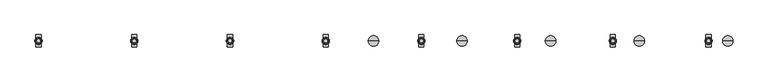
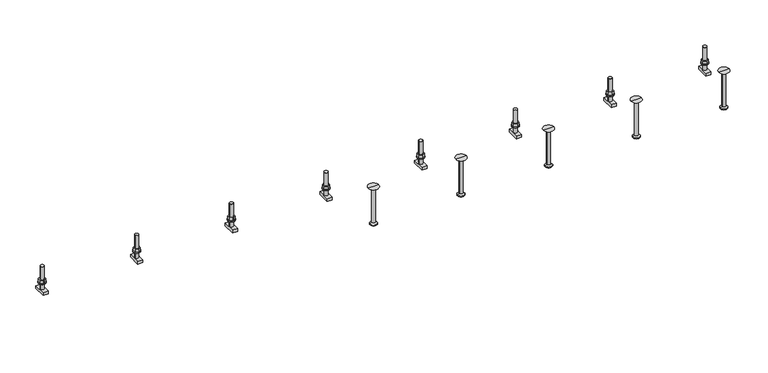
"""IFC4 building model written with IfcOpenShell, lengths in millimetres: fastener geometry, JTA-W JORDAHL® AnchorChannels : JTA-W L=3000 mm."""

from ifc_helpers import new_model, si_unit, point, frame, frame_2d, origin, place, context, project, spatial, polyline, circle_curve, trimmed, segment, composite_curve, outline, extrude, source, transform, mapped, element, save
from ifc_brep_helpers import plane_surface, cylinder_surface, revolved_surface, advanced_brep


def fastener_8da7cda9(model_context):
    return source(origin(), model_context, "Body", "SolidModel", [
        extrude(outline(polyline([(2608.3333333, -10.3923048), (2599.3333333, -5.1961524), (2599.3333333, 5.1961524), (2608.3333333, 10.3923048), (2617.3333333, 5.1961524), (2617.3333333, -5.1961524), (2608.3333333, -10.3923048)]), holes=[composite_curve([segment(trimmed(circle_curve(frame_2d((2608.3333333, 0.0)), 6.0), [point((2602.3333333, 0.0))], [point((2614.3333333, 0.0))], True, "CARTESIAN"), True, "CONTINUOUS"), segment(trimmed(circle_curve(frame_2d((2608.3333333, 0.0)), 6.0), [point((2614.3333333, 0.0))], [point((2602.3333333, 0.0))], True, "CARTESIAN"), True, "CONTINUOUS")], self_intersect=False)]), frame((0.0, 0.0, 17.5), z_axis=(0.0, 0.0, 1.0), x_axis=(1.0, 0.0, 0.0)), (0.0, 0.0, 1.0), 10.8),
        extrude(outline(composite_curve([segment(trimmed(circle_curve(frame_2d((2608.3333333, 0.0)), 12.0), [point((2596.3333333, 0.0))], [point((2620.3333333, 0.0))], False, "CARTESIAN"), True, "CONTINUOUS"), segment(trimmed(circle_curve(frame_2d((2608.3333333, 0.0)), 12.0), [point((2620.3333333, 0.0))], [point((2596.3333333, 0.0))], False, "CARTESIAN"), True, "CONTINUOUS")], self_intersect=False), holes=[composite_curve([segment(trimmed(circle_curve(frame_2d((2608.3333333, 0.0)), 6.5), [point((2601.8333333, 0.0))], [point((2614.8333333, 0.0))], True, "CARTESIAN"), True, "CONTINUOUS"), segment(trimmed(circle_curve(frame_2d((2608.3333333, 0.0)), 6.5), [point((2614.8333333, 0.0))], [point((2601.8333333, 0.0))], True, "CARTESIAN"), True, "CONTINUOUS")], self_intersect=False)]), frame((0.0, 0.0, 15.0), z_axis=(0.0, 0.0, 1.0), x_axis=(1.0, 0.0, 0.0)), (0.0, 0.0, 1.0), 2.5),
        extrude(outline(polyline([(2291.6666667, -10.3923048), (2282.6666667, -5.1961524), (2282.6666667, 5.1961524), (2291.6666667, 10.3923048), (2300.6666667, 5.1961524), (2300.6666667, -5.1961524), (2291.6666667, -10.3923048)]), holes=[composite_curve([segment(trimmed(circle_curve(frame_2d((2291.6666667, 0.0)), 6.0), [point((2285.6666667, 0.0))], [point((2297.6666667, 0.0))], True, "CARTESIAN"), True, "CONTINUOUS"), segment(trimmed(circle_curve(frame_2d((2291.6666667, 0.0)), 6.0), [point((2297.6666667, 0.0))], [point((2285.6666667, 0.0))], True, "CARTESIAN"), True, "CONTINUOUS")], self_intersect=False)]), frame((0.0, 0.0, 17.5), z_axis=(0.0, 0.0, 1.0), x_axis=(1.0, 0.0, 0.0)), (0.0, 0.0, 1.0), 10.8),
        extrude(outline(composite_curve([segment(trimmed(circle_curve(frame_2d((2291.6666667, 0.0)), 12.0), [point((2279.6666667, 0.0))], [point((2303.6666667, 0.0))], False, "CARTESIAN"), True, "CONTINUOUS"), segment(trimmed(circle_curve(frame_2d((2291.6666667, 0.0)), 12.0), [point((2303.6666667, 0.0))], [point((2279.6666667, 0.0))], False, "CARTESIAN"), True, "CONTINUOUS")], self_intersect=False), holes=[composite_curve([segment(trimmed(circle_curve(frame_2d((2291.6666667, 0.0)), 6.5), [point((2285.1666667, 0.0))], [point((2298.1666667, 0.0))], True, "CARTESIAN"), True, "CONTINUOUS"), segment(trimmed(circle_curve(frame_2d((2291.6666667, 0.0)), 6.5), [point((2298.1666667, 0.0))], [point((2285.1666667, 0.0))], True, "CARTESIAN"), True, "CONTINUOUS")], self_intersect=False)]), frame((0.0, 0.0, 15.0), z_axis=(0.0, 0.0, 1.0), x_axis=(1.0, 0.0, 0.0)), (0.0, 0.0, 1.0), 2.5),
        extrude(outline(polyline([(1975.0, -10.3923048), (1966.0, -5.1961524), (1966.0, 5.1961524), (1975.0, 10.3923048), (1984.0, 5.1961524), (1984.0, -5.1961524), (1975.0, -10.3923048)]), holes=[composite_curve([segment(trimmed(circle_curve(frame_2d((1975.0, 0.0)), 6.0), [point((1969.0, 0.0))], [point((1981.0, 0.0))], True, "CARTESIAN"), True, "CONTINUOUS"), segment(trimmed(circle_curve(frame_2d((1975.0, 0.0)), 6.0), [point((1981.0, 0.0))], [point((1969.0, 0.0))], True, "CARTESIAN"), True, "CONTINUOUS")], self_intersect=False)]), frame((0.0, 0.0, 17.5), z_axis=(0.0, 0.0, 1.0), x_axis=(1.0, 0.0, 0.0)), (0.0, 0.0, 1.0), 10.8),
        extrude(outline(composite_curve([segment(trimmed(circle_curve(frame_2d((1975.0, 0.0)), 12.0), [point((1963.0, 0.0))], [point((1987.0, 0.0))], False, "CARTESIAN"), True, "CONTINUOUS"), segment(trimmed(circle_curve(frame_2d((1975.0, 0.0)), 12.0), [point((1987.0, 0.0))], [point((1963.0, 0.0))], False, "CARTESIAN"), True, "CONTINUOUS")], self_intersect=False), holes=[composite_curve([segment(trimmed(circle_curve(frame_2d((1975.0, 0.0)), 6.5), [point((1968.5, 0.0))], [point((1981.5, 0.0))], True, "CARTESIAN"), True, "CONTINUOUS"), segment(trimmed(circle_curve(frame_2d((1975.0, 0.0)), 6.5), [point((1981.5, 0.0))], [point((1968.5, 0.0))], True, "CARTESIAN"), True, "CONTINUOUS")], self_intersect=False)]), frame((0.0, 0.0, 15.0), z_axis=(0.0, 0.0, 1.0), x_axis=(1.0, 0.0, 0.0)), (0.0, 0.0, 1.0), 2.5),
        extrude(outline(polyline([(1658.3333333, -10.3923048), (1649.3333333, -5.1961524), (1649.3333333, 5.1961524), (1658.3333333, 10.3923048), (1667.3333333, 5.1961524), (1667.3333333, -5.1961524), (1658.3333333, -10.3923048)]), holes=[composite_curve([segment(trimmed(circle_curve(frame_2d((1658.3333333, 0.0)), 6.0), [point((1652.3333333, 0.0))], [point((1664.3333333, 0.0))], True, "CARTESIAN"), True, "CONTINUOUS"), segment(trimmed(circle_curve(frame_2d((1658.3333333, 0.0)), 6.0), [point((1664.3333333, 0.0))], [point((1652.3333333, 0.0))], True, "CARTESIAN"), True, "CONTINUOUS")], self_intersect=False)]), frame((0.0, 0.0, 17.5), z_axis=(0.0, 0.0, 1.0), x_axis=(1.0, 0.0, 0.0)), (0.0, 0.0, 1.0), 10.8),
        extrude(outline(composite_curve([segment(trimmed(circle_curve(frame_2d((1658.3333333, 0.0)), 12.0), [point((1646.3333333, 0.0))], [point((1670.3333333, 0.0))], False, "CARTESIAN"), True, "CONTINUOUS"), segment(trimmed(circle_curve(frame_2d((1658.3333333, 0.0)), 12.0), [point((1670.3333333, 0.0))], [point((1646.3333333, 0.0))], False, "CARTESIAN"), True, "CONTINUOUS")], self_intersect=False), holes=[composite_curve([segment(trimmed(circle_curve(frame_2d((1658.3333333, 0.0)), 6.5), [point((1651.8333333, 0.0))], [point((1664.8333333, 0.0))], True, "CARTESIAN"), True, "CONTINUOUS"), segment(trimmed(circle_curve(frame_2d((1658.3333333, 0.0)), 6.5), [point((1664.8333333, 0.0))], [point((1651.8333333, 0.0))], True, "CARTESIAN"), True, "CONTINUOUS")], self_intersect=False)]), frame((0.0, 0.0, 15.0), z_axis=(0.0, 0.0, 1.0), x_axis=(1.0, 0.0, 0.0)), (0.0, 0.0, 1.0), 2.5),
        extrude(outline(polyline([(1341.6666667, -10.3923048), (1332.6666667, -5.1961524), (1332.6666667, 5.1961524), (1341.6666667, 10.3923048), (1350.6666667, 5.1961524), (1350.6666667, -5.1961524), (1341.6666667, -10.3923048)]), holes=[composite_curve([segment(trimmed(circle_curve(frame_2d((1341.6666667, 0.0)), 6.0), [point((1335.6666667, 0.0))], [point((1347.6666667, 0.0))], True, "CARTESIAN"), True, "CONTINUOUS"), segment(trimmed(circle_curve(frame_2d((1341.6666667, 0.0)), 6.0), [point((1347.6666667, 0.0))], [point((1335.6666667, 0.0))], True, "CARTESIAN"), True, "CONTINUOUS")], self_intersect=False)]), frame((0.0, 0.0, 17.5), z_axis=(0.0, 0.0, 1.0), x_axis=(1.0, 0.0, 0.0)), (0.0, 0.0, 1.0), 10.8),
        extrude(outline(composite_curve([segment(trimmed(circle_curve(frame_2d((1341.6666667, 0.0)), 12.0), [point((1329.6666667, 0.0))], [point((1353.6666667, 0.0))], False, "CARTESIAN"), True, "CONTINUOUS"), segment(trimmed(circle_curve(frame_2d((1341.6666667, 0.0)), 12.0), [point((1353.6666667, 0.0))], [point((1329.6666667, 0.0))], False, "CARTESIAN"), True, "CONTINUOUS")], self_intersect=False), holes=[composite_curve([segment(trimmed(circle_curve(frame_2d((1341.6666667, 0.0)), 6.5), [point((1335.1666667, 0.0))], [point((1348.1666667, 0.0))], True, "CARTESIAN"), True, "CONTINUOUS"), segment(trimmed(circle_curve(frame_2d((1341.6666667, 0.0)), 6.5), [point((1348.1666667, 0.0))], [point((1335.1666667, 0.0))], True, "CARTESIAN"), True, "CONTINUOUS")], self_intersect=False)]), frame((0.0, 0.0, 15.0), z_axis=(0.0, 0.0, 1.0), x_axis=(1.0, 0.0, 0.0)), (0.0, 0.0, 1.0), 2.5),
        extrude(outline(polyline([(1025.0, -10.3923048), (1016.0, -5.1961524), (1016.0, 5.1961524), (1025.0, 10.3923048), (1034.0, 5.1961524), (1034.0, -5.1961524), (1025.0, -10.3923048)]), holes=[composite_curve([segment(trimmed(circle_curve(frame_2d((1025.0, 0.0)), 6.0), [point((1019.0, 0.0))], [point((1031.0, 0.0))], True, "CARTESIAN"), True, "CONTINUOUS"), segment(trimmed(circle_curve(frame_2d((1025.0, 0.0)), 6.0), [point((1031.0, 0.0))], [point((1019.0, 0.0))], True, "CARTESIAN"), True, "CONTINUOUS")], self_intersect=False)]), frame((0.0, 0.0, 17.5), z_axis=(0.0, 0.0, 1.0), x_axis=(1.0, 0.0, 0.0)), (0.0, 0.0, 1.0), 10.8),
        extrude(outline(composite_curve([segment(trimmed(circle_curve(frame_2d((1025.0, 0.0)), 12.0), [point((1013.0, 0.0))], [point((1037.0, 0.0))], False, "CARTESIAN"), True, "CONTINUOUS"), segment(trimmed(circle_curve(frame_2d((1025.0, 0.0)), 12.0), [point((1037.0, 0.0))], [point((1013.0, 0.0))], False, "CARTESIAN"), True, "CONTINUOUS")], self_intersect=False), holes=[composite_curve([segment(trimmed(circle_curve(frame_2d((1025.0, 0.0)), 6.5), [point((1018.5, 0.0))], [point((1031.5, 0.0))], True, "CARTESIAN"), True, "CONTINUOUS"), segment(trimmed(circle_curve(frame_2d((1025.0, 0.0)), 6.5), [point((1031.5, 0.0))], [point((1018.5, 0.0))], True, "CARTESIAN"), True, "CONTINUOUS")], self_intersect=False)]), frame((0.0, 0.0, 15.0), z_axis=(0.0, 0.0, 1.0), x_axis=(1.0, 0.0, 0.0)), (0.0, 0.0, 1.0), 2.5),
        extrude(outline(polyline([(708.3333333, -10.3923048), (699.3333333, -5.1961524), (699.3333333, 5.1961524), (708.3333333, 10.3923048), (717.3333333, 5.1961524), (717.3333333, -5.1961524), (708.3333333, -10.3923048)]), holes=[composite_curve([segment(trimmed(circle_curve(frame_2d((708.3333333, 0.0)), 6.0), [point((702.3333333, 0.0))], [point((714.3333333, 0.0))], True, "CARTESIAN"), True, "CONTINUOUS"), segment(trimmed(circle_curve(frame_2d((708.3333333, 0.0)), 6.0), [point((714.3333333, 0.0))], [point((702.3333333, 0.0))], True, "CARTESIAN"), True, "CONTINUOUS")], self_intersect=False)]), frame((0.0, 0.0, 17.5), z_axis=(0.0, 0.0, 1.0), x_axis=(1.0, 0.0, 0.0)), (0.0, 0.0, 1.0), 10.8),
        extrude(outline(composite_curve([segment(trimmed(circle_curve(frame_2d((708.3333333, 0.0)), 12.0), [point((696.3333333, 0.0))], [point((720.3333333, 0.0))], False, "CARTESIAN"), True, "CONTINUOUS"), segment(trimmed(circle_curve(frame_2d((708.3333333, 0.0)), 12.0), [point((720.3333333, 0.0))], [point((696.3333333, 0.0))], False, "CARTESIAN"), True, "CONTINUOUS")], self_intersect=False), holes=[composite_curve([segment(trimmed(circle_curve(frame_2d((708.3333333, 0.0)), 6.5), [point((701.8333333, 0.0))], [point((714.8333333, 0.0))], True, "CARTESIAN"), True, "CONTINUOUS"), segment(trimmed(circle_curve(frame_2d((708.3333333, 0.0)), 6.5), [point((714.8333333, 0.0))], [point((701.8333333, 0.0))], True, "CARTESIAN"), True, "CONTINUOUS")], self_intersect=False)]), frame((0.0, 0.0, 15.0), z_axis=(0.0, 0.0, 1.0), x_axis=(1.0, 0.0, 0.0)), (0.0, 0.0, 1.0), 2.5),
        extrude(outline(polyline([(391.6666667, -10.3923048), (382.6666667, -5.1961524), (382.6666667, 5.1961524), (391.6666667, 10.3923048), (400.6666667, 5.1961524), (400.6666667, -5.1961524), (391.6666667, -10.3923048)]), holes=[composite_curve([segment(trimmed(circle_curve(frame_2d((391.6666667, 0.0)), 6.0), [point((385.6666667, 0.0))], [point((397.6666667, 0.0))], True, "CARTESIAN"), True, "CONTINUOUS"), segment(trimmed(circle_curve(frame_2d((391.6666667, 0.0)), 6.0), [point((397.6666667, 0.0))], [point((385.6666667, 0.0))], True, "CARTESIAN"), True, "CONTINUOUS")], self_intersect=False)]), frame((0.0, 0.0, 17.5), z_axis=(0.0, 0.0, 1.0), x_axis=(1.0, 0.0, 0.0)), (0.0, 0.0, 1.0), 10.8),
        extrude(outline(composite_curve([segment(trimmed(circle_curve(frame_2d((391.6666667, 0.0)), 12.0), [point((379.6666667, 0.0))], [point((403.6666667, 0.0))], False, "CARTESIAN"), True, "CONTINUOUS"), segment(trimmed(circle_curve(frame_2d((391.6666667, 0.0)), 12.0), [point((403.6666667, 0.0))], [point((379.6666667, 0.0))], False, "CARTESIAN"), True, "CONTINUOUS")], self_intersect=False), holes=[composite_curve([segment(trimmed(circle_curve(frame_2d((391.6666667, 0.0)), 6.5), [point((385.1666667, 0.0))], [point((398.1666667, 0.0))], True, "CARTESIAN"), True, "CONTINUOUS"), segment(trimmed(circle_curve(frame_2d((391.6666667, 0.0)), 6.5), [point((398.1666667, 0.0))], [point((385.1666667, 0.0))], True, "CARTESIAN"), True, "CONTINUOUS")], self_intersect=False)]), frame((0.0, 0.0, 15.0), z_axis=(0.0, 0.0, 1.0), x_axis=(1.0, 0.0, 0.0)), (0.0, 0.0, 1.0), 2.5),
        advanced_brep(
        [(2616.8333333, -20.7, -6.5), (2616.8333333, -20.7, -16.5), (2616.8333333, 20.7, -16.5), (2616.8333333, 20.7, -6.5), (2599.8333333, -20.7, -6.5), (2599.8333333, 20.7, -6.5), (2599.8333333, 20.7, -16.5), (2599.8333333, -20.7, -16.5), (2614.3333333, 0.0, -6.5), (2602.3333333, 0.0, -6.5), (2602.3333333, 0.0, 73.5), (2614.3333333, 0.0, 73.5)],
        [
            (0, 1),
            (1, 2),
            (2, 3),
            (3, 0),
            (4, 5),
            (5, 6),
            (6, 7),
            (7, 4),
            (3, 5),
            (4, 0),
            (8, 9, circle_curve(frame((2608.3333333, 0.0, -6.5), z_axis=(0.0, 0.0, -1.0), x_axis=(1.0, 0.0, 0.0)), 6.0)),
            (9, 8, circle_curve(frame((2608.3333333, 0.0, -6.5), z_axis=(0.0, 0.0, -1.0), x_axis=(1.0, 0.0, 0.0)), 6.0)),
            (2, 6),
            (1, 7),
            (10, 11, circle_curve(frame((2608.3333333, 0.0, 73.5), z_axis=(0.0, 0.0, 1.0), x_axis=(1.0, 0.0, 0.0)), 6.0)),
            (11, 10, circle_curve(frame((2608.3333333, 0.0, 73.5), z_axis=(0.0, 0.0, 1.0), x_axis=(1.0, 0.0, 0.0)), 6.0)),
            (11, 8),
            (9, 10),
        ],
        [
            plane_surface(frame((2616.8333333, 20.7, -6.5), z_axis=(1.0, 0.0, 0.0), x_axis=(0.0, 1.0, 0.0))),
            plane_surface(frame((2599.8333333, 20.7, -6.5), z_axis=(-1.0, 0.0, 0.0), x_axis=(0.0, -1.0, 0.0))),
            plane_surface(frame((2616.8333333, -20.7, -6.5), z_axis=(0.0, 0.0, 1.0), x_axis=(-1.0, 0.0, 0.0))),
            plane_surface(frame((2616.8333333, 20.7, -6.5), z_axis=(0.0, 1.0, 0.0), x_axis=(-1.0, 0.0, 0.0))),
            plane_surface(frame((2616.8333333, 20.7, -16.5), z_axis=(0.0, 0.0, -1.0), x_axis=(-1.0, 0.0, 0.0))),
            plane_surface(frame((2616.8333333, -20.7, -16.5), z_axis=(0.0, -1.0, 0.0), x_axis=(-1.0, 0.0, 0.0))),
            plane_surface(frame((2614.3333333, 0.0, 73.5), z_axis=(0.0, 0.0, 1.0), x_axis=(0.0, -1.0, 0.0))),
            cylinder_surface(frame((2608.3333333, 0.0, -6.5), z_axis=(0.0, 0.0, 1.0), x_axis=(1.0, 0.0, 0.0)), 6.0),
        ],
        [
            (0, [[1, 2, 3, 4]]),
            (1, [[5, 6, 7, 8]]),
            (2, [[9, -5, 10, -4], [11, 12]]),
            (3, [[13, -6, -9, -3]]),
            (4, [[14, -7, -13, -2]]),
            (5, [[-10, -8, -14, -1]]),
            (6, [[15, 16]]),
            (7, [[17, -12, 18, -16]]),
            (7, [[-18, -11, -17, -15]]),
        ],
    ),
        advanced_brep(
        [(2300.1666667, -20.7, -6.5), (2300.1666667, -20.7, -16.5), (2300.1666667, 20.7, -16.5), (2300.1666667, 20.7, -6.5), (2283.1666667, -20.7, -6.5), (2283.1666667, 20.7, -6.5), (2283.1666667, 20.7, -16.5), (2283.1666667, -20.7, -16.5), (2297.6666667, 0.0, -6.5), (2285.6666667, 0.0, -6.5), (2285.6666667, 0.0, 73.5), (2297.6666667, 0.0, 73.5)],
        [
            (0, 1),
            (1, 2),
            (2, 3),
            (3, 0),
            (4, 5),
            (5, 6),
            (6, 7),
            (7, 4),
            (3, 5),
            (4, 0),
            (8, 9, circle_curve(frame((2291.6666667, 0.0, -6.5), z_axis=(0.0, 0.0, -1.0), x_axis=(1.0, 0.0, 0.0)), 6.0)),
            (9, 8, circle_curve(frame((2291.6666667, 0.0, -6.5), z_axis=(0.0, 0.0, -1.0), x_axis=(1.0, 0.0, 0.0)), 6.0)),
            (2, 6),
            (1, 7),
            (10, 11, circle_curve(frame((2291.6666667, 0.0, 73.5), z_axis=(0.0, 0.0, 1.0), x_axis=(1.0, 0.0, 0.0)), 6.0)),
            (11, 10, circle_curve(frame((2291.6666667, 0.0, 73.5), z_axis=(0.0, 0.0, 1.0), x_axis=(1.0, 0.0, 0.0)), 6.0)),
            (11, 8),
            (9, 10),
        ],
        [
            plane_surface(frame((2300.1666667, 20.7, -6.5), z_axis=(1.0, 0.0, 0.0), x_axis=(0.0, 1.0, 0.0))),
            plane_surface(frame((2283.1666667, 20.7, -6.5), z_axis=(-1.0, 0.0, 0.0), x_axis=(0.0, -1.0, 0.0))),
            plane_surface(frame((2300.1666667, -20.7, -6.5), z_axis=(0.0, 0.0, 1.0), x_axis=(-1.0, 0.0, 0.0))),
            plane_surface(frame((2300.1666667, 20.7, -6.5), z_axis=(0.0, 1.0, 0.0), x_axis=(-1.0, 0.0, 0.0))),
            plane_surface(frame((2300.1666667, 20.7, -16.5), z_axis=(0.0, 0.0, -1.0), x_axis=(-1.0, 0.0, 0.0))),
            plane_surface(frame((2300.1666667, -20.7, -16.5), z_axis=(0.0, -1.0, 0.0), x_axis=(-1.0, 0.0, 0.0))),
            plane_surface(frame((2297.6666667, 0.0, 73.5), z_axis=(0.0, 0.0, 1.0), x_axis=(0.0, -1.0, 0.0))),
            cylinder_surface(frame((2291.6666667, 0.0, -6.5), z_axis=(0.0, 0.0, 1.0), x_axis=(1.0, 0.0, 0.0)), 6.0),
        ],
        [
            (0, [[1, 2, 3, 4]]),
            (1, [[5, 6, 7, 8]]),
            (2, [[9, -5, 10, -4], [11, 12]]),
            (3, [[13, -6, -9, -3]]),
            (4, [[14, -7, -13, -2]]),
            (5, [[-10, -8, -14, -1]]),
            (6, [[15, 16]]),
            (7, [[17, -12, 18, -16]]),
            (7, [[-18, -11, -17, -15]]),
        ],
    ),
        advanced_brep(
        [(1983.5, -20.7, -6.5), (1983.5, -20.7, -16.5), (1983.5, 20.7, -16.5), (1983.5, 20.7, -6.5), (1966.5, -20.7, -6.5), (1966.5, 20.7, -6.5), (1966.5, 20.7, -16.5), (1966.5, -20.7, -16.5), (1981.0, 0.0, -6.5), (1969.0, 0.0, -6.5), (1969.0, 0.0, 73.5), (1981.0, 0.0, 73.5)],
        [
            (0, 1),
            (1, 2),
            (2, 3),
            (3, 0),
            (4, 5),
            (5, 6),
            (6, 7),
            (7, 4),
            (3, 5),
            (4, 0),
            (8, 9, circle_curve(frame((1975.0, 0.0, -6.5), z_axis=(0.0, 0.0, -1.0), x_axis=(1.0, 0.0, 0.0)), 6.0)),
            (9, 8, circle_curve(frame((1975.0, 0.0, -6.5), z_axis=(0.0, 0.0, -1.0), x_axis=(1.0, 0.0, 0.0)), 6.0)),
            (2, 6),
            (1, 7),
            (10, 11, circle_curve(frame((1975.0, 0.0, 73.5), z_axis=(0.0, 0.0, 1.0), x_axis=(1.0, 0.0, 0.0)), 6.0)),
            (11, 10, circle_curve(frame((1975.0, 0.0, 73.5), z_axis=(0.0, 0.0, 1.0), x_axis=(1.0, 0.0, 0.0)), 6.0)),
            (11, 8),
            (9, 10),
        ],
        [
            plane_surface(frame((1983.5, 20.7, -6.5), z_axis=(1.0, 0.0, 0.0), x_axis=(0.0, 1.0, 0.0))),
            plane_surface(frame((1966.5, 20.7, -6.5), z_axis=(-1.0, 0.0, 0.0), x_axis=(0.0, -1.0, 0.0))),
            plane_surface(frame((1983.5, -20.7, -6.5), z_axis=(0.0, 0.0, 1.0), x_axis=(-1.0, 0.0, 0.0))),
            plane_surface(frame((1983.5, 20.7, -6.5), z_axis=(0.0, 1.0, 0.0), x_axis=(-1.0, 0.0, 0.0))),
            plane_surface(frame((1983.5, 20.7, -16.5), z_axis=(0.0, 0.0, -1.0), x_axis=(-1.0, 0.0, 0.0))),
            plane_surface(frame((1983.5, -20.7, -16.5), z_axis=(0.0, -1.0, 0.0), x_axis=(-1.0, 0.0, 0.0))),
            plane_surface(frame((1981.0, 0.0, 73.5), z_axis=(0.0, 0.0, 1.0), x_axis=(0.0, -1.0, 0.0))),
            cylinder_surface(frame((1975.0, 0.0, -6.5), z_axis=(0.0, 0.0, 1.0), x_axis=(1.0, 0.0, 0.0)), 6.0),
        ],
        [
            (0, [[1, 2, 3, 4]]),
            (1, [[5, 6, 7, 8]]),
            (2, [[9, -5, 10, -4], [11, 12]]),
            (3, [[13, -6, -9, -3]]),
            (4, [[14, -7, -13, -2]]),
            (5, [[-10, -8, -14, -1]]),
            (6, [[15, 16]]),
            (7, [[17, -12, 18, -16]]),
            (7, [[-18, -11, -17, -15]]),
        ],
    ),
        advanced_brep(
        [(1666.8333333, -20.7, -6.5), (1666.8333333, -20.7, -16.5), (1666.8333333, 20.7, -16.5), (1666.8333333, 20.7, -6.5), (1649.8333333, -20.7, -6.5), (1649.8333333, 20.7, -6.5), (1649.8333333, 20.7, -16.5), (1649.8333333, -20.7, -16.5), (1664.3333333, 0.0, -6.5), (1652.3333333, 0.0, -6.5), (1652.3333333, 0.0, 73.5), (1664.3333333, 0.0, 73.5)],
        [
            (0, 1),
            (1, 2),
            (2, 3),
            (3, 0),
            (4, 5),
            (5, 6),
            (6, 7),
            (7, 4),
            (3, 5),
            (4, 0),
            (8, 9, circle_curve(frame((1658.3333333, 0.0, -6.5), z_axis=(0.0, 0.0, -1.0), x_axis=(1.0, 0.0, 0.0)), 6.0)),
            (9, 8, circle_curve(frame((1658.3333333, 0.0, -6.5), z_axis=(0.0, 0.0, -1.0), x_axis=(1.0, 0.0, 0.0)), 6.0)),
            (2, 6),
            (1, 7),
            (10, 11, circle_curve(frame((1658.3333333, 0.0, 73.5), z_axis=(0.0, 0.0, 1.0), x_axis=(1.0, 0.0, 0.0)), 6.0)),
            (11, 10, circle_curve(frame((1658.3333333, 0.0, 73.5), z_axis=(0.0, 0.0, 1.0), x_axis=(1.0, 0.0, 0.0)), 6.0)),
            (11, 8),
            (9, 10),
        ],
        [
            plane_surface(frame((1666.8333333, 20.7, -6.5), z_axis=(1.0, 0.0, 0.0), x_axis=(0.0, 1.0, 0.0))),
            plane_surface(frame((1649.8333333, 20.7, -6.5), z_axis=(-1.0, 0.0, 0.0), x_axis=(0.0, -1.0, 0.0))),
            plane_surface(frame((1666.8333333, -20.7, -6.5), z_axis=(0.0, 0.0, 1.0), x_axis=(-1.0, 0.0, 0.0))),
            plane_surface(frame((1666.8333333, 20.7, -6.5), z_axis=(0.0, 1.0, 0.0), x_axis=(-1.0, 0.0, 0.0))),
            plane_surface(frame((1666.8333333, 20.7, -16.5), z_axis=(0.0, 0.0, -1.0), x_axis=(-1.0, 0.0, 0.0))),
            plane_surface(frame((1666.8333333, -20.7, -16.5), z_axis=(0.0, -1.0, 0.0), x_axis=(-1.0, 0.0, 0.0))),
            plane_surface(frame((1664.3333333, 0.0, 73.5), z_axis=(0.0, 0.0, 1.0), x_axis=(0.0, -1.0, 0.0))),
            cylinder_surface(frame((1658.3333333, 0.0, -6.5), z_axis=(0.0, 0.0, 1.0), x_axis=(1.0, 0.0, 0.0)), 6.0),
        ],
        [
            (0, [[1, 2, 3, 4]]),
            (1, [[5, 6, 7, 8]]),
            (2, [[9, -5, 10, -4], [11, 12]]),
            (3, [[13, -6, -9, -3]]),
            (4, [[14, -7, -13, -2]]),
            (5, [[-10, -8, -14, -1]]),
            (6, [[15, 16]]),
            (7, [[17, -12, 18, -16]]),
            (7, [[-18, -11, -17, -15]]),
        ],
    ),
        advanced_brep(
        [(1350.1666667, -20.7, -6.5), (1350.1666667, -20.7, -16.5), (1350.1666667, 20.7, -16.5), (1350.1666667, 20.7, -6.5), (1333.1666667, -20.7, -6.5), (1333.1666667, 20.7, -6.5), (1333.1666667, 20.7, -16.5), (1333.1666667, -20.7, -16.5), (1347.6666667, 0.0, -6.5), (1335.6666667, 0.0, -6.5), (1335.6666667, 0.0, 73.5), (1347.6666667, 0.0, 73.5)],
        [
            (0, 1),
            (1, 2),
            (2, 3),
            (3, 0),
            (4, 5),
            (5, 6),
            (6, 7),
            (7, 4),
            (3, 5),
            (4, 0),
            (8, 9, circle_curve(frame((1341.6666667, 0.0, -6.5), z_axis=(0.0, 0.0, -1.0), x_axis=(1.0, 0.0, 0.0)), 6.0)),
            (9, 8, circle_curve(frame((1341.6666667, 0.0, -6.5), z_axis=(0.0, 0.0, -1.0), x_axis=(1.0, 0.0, 0.0)), 6.0)),
            (2, 6),
            (1, 7),
            (10, 11, circle_curve(frame((1341.6666667, 0.0, 73.5), z_axis=(0.0, 0.0, 1.0), x_axis=(1.0, 0.0, 0.0)), 6.0)),
            (11, 10, circle_curve(frame((1341.6666667, 0.0, 73.5), z_axis=(0.0, 0.0, 1.0), x_axis=(1.0, 0.0, 0.0)), 6.0)),
            (11, 8),
            (9, 10),
        ],
        [
            plane_surface(frame((1350.1666667, 20.7, -6.5), z_axis=(1.0, 0.0, 0.0), x_axis=(0.0, 1.0, 0.0))),
            plane_surface(frame((1333.1666667, 20.7, -6.5), z_axis=(-1.0, 0.0, 0.0), x_axis=(0.0, -1.0, 0.0))),
            plane_surface(frame((1350.1666667, -20.7, -6.5), z_axis=(0.0, 0.0, 1.0), x_axis=(-1.0, 0.0, 0.0))),
            plane_surface(frame((1350.1666667, 20.7, -6.5), z_axis=(0.0, 1.0, 0.0), x_axis=(-1.0, 0.0, 0.0))),
            plane_surface(frame((1350.1666667, 20.7, -16.5), z_axis=(0.0, 0.0, -1.0), x_axis=(-1.0, 0.0, 0.0))),
            plane_surface(frame((1350.1666667, -20.7, -16.5), z_axis=(0.0, -1.0, 0.0), x_axis=(-1.0, 0.0, 0.0))),
            plane_surface(frame((1347.6666667, 0.0, 73.5), z_axis=(0.0, 0.0, 1.0), x_axis=(0.0, -1.0, 0.0))),
            cylinder_surface(frame((1341.6666667, 0.0, -6.5), z_axis=(0.0, 0.0, 1.0), x_axis=(1.0, 0.0, 0.0)), 6.0),
        ],
        [
            (0, [[1, 2, 3, 4]]),
            (1, [[5, 6, 7, 8]]),
            (2, [[9, -5, 10, -4], [11, 12]]),
            (3, [[13, -6, -9, -3]]),
            (4, [[14, -7, -13, -2]]),
            (5, [[-10, -8, -14, -1]]),
            (6, [[15, 16]]),
            (7, [[17, -12, 18, -16]]),
            (7, [[-18, -11, -17, -15]]),
        ],
    ),
        advanced_brep(
        [(1033.5, -20.7, -6.5), (1033.5, -20.7, -16.5), (1033.5, 20.7, -16.5), (1033.5, 20.7, -6.5), (1016.5, -20.7, -6.5), (1016.5, 20.7, -6.5), (1016.5, 20.7, -16.5), (1016.5, -20.7, -16.5), (1031.0, 0.0, -6.5), (1019.0, 0.0, -6.5), (1019.0, 0.0, 73.5), (1031.0, 0.0, 73.5)],
        [
            (0, 1),
            (1, 2),
            (2, 3),
            (3, 0),
            (4, 5),
            (5, 6),
            (6, 7),
            (7, 4),
            (3, 5),
            (4, 0),
            (8, 9, circle_curve(frame((1025.0, 0.0, -6.5), z_axis=(0.0, 0.0, -1.0), x_axis=(1.0, 0.0, 0.0)), 6.0)),
            (9, 8, circle_curve(frame((1025.0, 0.0, -6.5), z_axis=(0.0, 0.0, -1.0), x_axis=(1.0, 0.0, 0.0)), 6.0)),
            (2, 6),
            (1, 7),
            (10, 11, circle_curve(frame((1025.0, 0.0, 73.5), z_axis=(0.0, 0.0, 1.0), x_axis=(1.0, 0.0, 0.0)), 6.0)),
            (11, 10, circle_curve(frame((1025.0, 0.0, 73.5), z_axis=(0.0, 0.0, 1.0), x_axis=(1.0, 0.0, 0.0)), 6.0)),
            (11, 8),
            (9, 10),
        ],
        [
            plane_surface(frame((1033.5, 20.7, -6.5), z_axis=(1.0, 0.0, 0.0), x_axis=(0.0, 1.0, 0.0))),
            plane_surface(frame((1016.5, 20.7, -6.5), z_axis=(-1.0, 0.0, 0.0), x_axis=(0.0, -1.0, 0.0))),
            plane_surface(frame((1033.5, -20.7, -6.5), z_axis=(0.0, 0.0, 1.0), x_axis=(-1.0, 0.0, 0.0))),
            plane_surface(frame((1033.5, 20.7, -6.5), z_axis=(0.0, 1.0, 0.0), x_axis=(-1.0, 0.0, 0.0))),
            plane_surface(frame((1033.5, 20.7, -16.5), z_axis=(0.0, 0.0, -1.0), x_axis=(-1.0, 0.0, 0.0))),
            plane_surface(frame((1033.5, -20.7, -16.5), z_axis=(0.0, -1.0, 0.0), x_axis=(-1.0, 0.0, 0.0))),
            plane_surface(frame((1031.0, 0.0, 73.5), z_axis=(0.0, 0.0, 1.0), x_axis=(0.0, -1.0, 0.0))),
            cylinder_surface(frame((1025.0, 0.0, -6.5), z_axis=(0.0, 0.0, 1.0), x_axis=(1.0, 0.0, 0.0)), 6.0),
        ],
        [
            (0, [[1, 2, 3, 4]]),
            (1, [[5, 6, 7, 8]]),
            (2, [[9, -5, 10, -4], [11, 12]]),
            (3, [[13, -6, -9, -3]]),
            (4, [[14, -7, -13, -2]]),
            (5, [[-10, -8, -14, -1]]),
            (6, [[15, 16]]),
            (7, [[17, -12, 18, -16]]),
            (7, [[-18, -11, -17, -15]]),
        ],
    ),
        advanced_brep(
        [(716.8333333, -20.7, -6.5), (716.8333333, -20.7, -16.5), (716.8333333, 20.7, -16.5), (716.8333333, 20.7, -6.5), (699.8333333, -20.7, -6.5), (699.8333333, 20.7, -6.5), (699.8333333, 20.7, -16.5), (699.8333333, -20.7, -16.5), (714.3333333, 0.0, -6.5), (702.3333333, 0.0, -6.5), (702.3333333, 0.0, 73.5), (714.3333333, 0.0, 73.5)],
        [
            (0, 1),
            (1, 2),
            (2, 3),
            (3, 0),
            (4, 5),
            (5, 6),
            (6, 7),
            (7, 4),
            (3, 5),
            (4, 0),
            (8, 9, circle_curve(frame((708.3333333, 0.0, -6.5), z_axis=(0.0, 0.0, -1.0), x_axis=(1.0, 0.0, 0.0)), 6.0)),
            (9, 8, circle_curve(frame((708.3333333, 0.0, -6.5), z_axis=(0.0, 0.0, -1.0), x_axis=(1.0, 0.0, 0.0)), 6.0)),
            (2, 6),
            (1, 7),
            (10, 11, circle_curve(frame((708.3333333, 0.0, 73.5), z_axis=(0.0, 0.0, 1.0), x_axis=(1.0, 0.0, 0.0)), 6.0)),
            (11, 10, circle_curve(frame((708.3333333, 0.0, 73.5), z_axis=(0.0, 0.0, 1.0), x_axis=(1.0, 0.0, 0.0)), 6.0)),
            (11, 8),
            (9, 10),
        ],
        [
            plane_surface(frame((716.8333333, 20.7, -6.5), z_axis=(1.0, 0.0, 0.0), x_axis=(0.0, 1.0, 0.0))),
            plane_surface(frame((699.8333333, 20.7, -6.5), z_axis=(-1.0, 0.0, 0.0), x_axis=(0.0, -1.0, 0.0))),
            plane_surface(frame((716.8333333, -20.7, -6.5), z_axis=(0.0, 0.0, 1.0), x_axis=(-1.0, 0.0, 0.0))),
            plane_surface(frame((716.8333333, 20.7, -6.5), z_axis=(0.0, 1.0, 0.0), x_axis=(-1.0, 0.0, 0.0))),
            plane_surface(frame((716.8333333, 20.7, -16.5), z_axis=(0.0, 0.0, -1.0), x_axis=(-1.0, 0.0, 0.0))),
            plane_surface(frame((716.8333333, -20.7, -16.5), z_axis=(0.0, -1.0, 0.0), x_axis=(-1.0, 0.0, 0.0))),
            plane_surface(frame((714.3333333, 0.0, 73.5), z_axis=(0.0, 0.0, 1.0), x_axis=(0.0, -1.0, 0.0))),
            cylinder_surface(frame((708.3333333, 0.0, -6.5), z_axis=(0.0, 0.0, 1.0), x_axis=(1.0, 0.0, 0.0)), 6.0),
        ],
        [
            (0, [[1, 2, 3, 4]]),
            (1, [[5, 6, 7, 8]]),
            (2, [[9, -5, 10, -4], [11, 12]]),
            (3, [[13, -6, -9, -3]]),
            (4, [[14, -7, -13, -2]]),
            (5, [[-10, -8, -14, -1]]),
            (6, [[15, 16]]),
            (7, [[17, -12, 18, -16]]),
            (7, [[-18, -11, -17, -15]]),
        ],
    ),
        advanced_brep(
        [(400.1666667, -20.7, -6.5), (400.1666667, -20.7, -16.5), (400.1666667, 20.7, -16.5), (400.1666667, 20.7, -6.5), (383.1666667, -20.7, -6.5), (383.1666667, 20.7, -6.5), (383.1666667, 20.7, -16.5), (383.1666667, -20.7, -16.5), (397.6666667, 0.0, -6.5), (385.6666667, 0.0, -6.5), (385.6666667, 0.0, 73.5), (397.6666667, 0.0, 73.5)],
        [
            (0, 1),
            (1, 2),
            (2, 3),
            (3, 0),
            (4, 5),
            (5, 6),
            (6, 7),
            (7, 4),
            (3, 5),
            (4, 0),
            (8, 9, circle_curve(frame((391.6666667, 0.0, -6.5), z_axis=(0.0, 0.0, -1.0), x_axis=(1.0, 0.0, 0.0)), 6.0)),
            (9, 8, circle_curve(frame((391.6666667, 0.0, -6.5), z_axis=(0.0, 0.0, -1.0), x_axis=(1.0, 0.0, 0.0)), 6.0)),
            (2, 6),
            (1, 7),
            (10, 11, circle_curve(frame((391.6666667, 0.0, 73.5), z_axis=(0.0, 0.0, 1.0), x_axis=(1.0, 0.0, 0.0)), 6.0)),
            (11, 10, circle_curve(frame((391.6666667, 0.0, 73.5), z_axis=(0.0, 0.0, 1.0), x_axis=(1.0, 0.0, 0.0)), 6.0)),
            (11, 8),
            (9, 10),
        ],
        [
            plane_surface(frame((400.1666667, 20.7, -6.5), z_axis=(1.0, 0.0, 0.0), x_axis=(0.0, 1.0, 0.0))),
            plane_surface(frame((383.1666667, 20.7, -6.5), z_axis=(-1.0, 0.0, 0.0), x_axis=(0.0, -1.0, 0.0))),
            plane_surface(frame((400.1666667, -20.7, -6.5), z_axis=(0.0, 0.0, 1.0), x_axis=(-1.0, 0.0, 0.0))),
            plane_surface(frame((400.1666667, 20.7, -6.5), z_axis=(0.0, 1.0, 0.0), x_axis=(-1.0, 0.0, 0.0))),
            plane_surface(frame((400.1666667, 20.7, -16.5), z_axis=(0.0, 0.0, -1.0), x_axis=(-1.0, 0.0, 0.0))),
            plane_surface(frame((400.1666667, -20.7, -16.5), z_axis=(0.0, -1.0, 0.0), x_axis=(-1.0, 0.0, 0.0))),
            plane_surface(frame((397.6666667, 0.0, 73.5), z_axis=(0.0, 0.0, 1.0), x_axis=(0.0, -1.0, 0.0))),
            cylinder_surface(frame((391.6666667, 0.0, -6.5), z_axis=(0.0, 0.0, 1.0), x_axis=(1.0, 0.0, 0.0)), 6.0),
        ],
        [
            (0, [[1, 2, 3, 4]]),
            (1, [[5, 6, 7, 8]]),
            (2, [[9, -5, 10, -4], [11, 12]]),
            (3, [[13, -6, -9, -3]]),
            (4, [[14, -7, -13, -2]]),
            (5, [[-10, -8, -14, -1]]),
            (6, [[15, 16]]),
            (7, [[17, -12, 18, -16]]),
            (7, [[-18, -11, -17, -15]]),
        ],
    ),
        advanced_brep(
        [(2672.0, 0.0, -34.0), (2654.5, 0.0, -34.0), (2689.5, 0.0, -34.0), (2660.2, 0.0, -165.0), (2672.0, 0.0, -165.0), (2683.8, 0.0, -165.0), (2660.2, 0.0, -163.0), (2683.8, 0.0, -163.0), (2666.2, 0.0, -159.5358984), (2677.8, 0.0, -159.5358984), (2666.2, 0.0, -37.0), (2677.8, 0.0, -37.0)],
        [
            (0, 1),
            (1, 2, circle_curve(frame((2672.0, 0.0, -34.0), z_axis=(0.0, 0.0, 1.0), x_axis=(1.0, 0.0, 0.0)), 17.5)),
            (2, 0),
            (2, 1, circle_curve(frame((2672.0, 0.0, -34.0), z_axis=(0.0, 0.0, 1.0), x_axis=(1.0, 0.0, 0.0)), 17.5)),
            (3, 4),
            (4, 5),
            (5, 3, circle_curve(frame((2672.0, 0.0, -165.0), z_axis=(0.0, 0.0, -1.0), x_axis=(1.0, 0.0, 0.0)), 11.8)),
            (3, 5, circle_curve(frame((2672.0, 0.0, -165.0), z_axis=(0.0, 0.0, -1.0), x_axis=(1.0, 0.0, 0.0)), 11.8)),
            (6, 3),
            (5, 7),
            (7, 6, circle_curve(frame((2672.0, 0.0, -163.0), z_axis=(0.0, 0.0, -1.0), x_axis=(1.0, 0.0, 0.0)), 11.8)),
            (6, 7, circle_curve(frame((2672.0, 0.0, -163.0), z_axis=(0.0, 0.0, -1.0), x_axis=(1.0, 0.0, 0.0)), 11.8)),
            (8, 6),
            (7, 9),
            (9, 8, circle_curve(frame((2672.0, 0.0, -159.5358984), z_axis=(0.0, 0.0, -1.0), x_axis=(1.0, 0.0, 0.0)), 5.8)),
            (8, 9, circle_curve(frame((2672.0, 0.0, -159.5358984), z_axis=(0.0, 0.0, -1.0), x_axis=(1.0, 0.0, 0.0)), 5.8)),
            (10, 8),
            (9, 11),
            (11, 10, circle_curve(frame((2672.0, 0.0, -37.0), z_axis=(0.0, 0.0, -1.0), x_axis=(1.0, 0.0, 0.0)), 5.8)),
            (10, 11, circle_curve(frame((2672.0, 0.0, -37.0), z_axis=(0.0, 0.0, -1.0), x_axis=(1.0, 0.0, 0.0)), 5.8)),
            (1, 10),
            (11, 2),
        ],
        [
            plane_surface(frame((2672.0, 0.0, -34.0), z_axis=(0.0, 0.0, 1.0), x_axis=(1.0, 0.0, 0.0))),
            plane_surface(frame((2672.0, 0.0, -165.0), z_axis=(0.0, 0.0, -1.0), x_axis=(1.0, 0.0, 0.0))),
            cylinder_surface(frame((2672.0, 0.0, 2345.3150031), z_axis=(0.0, 0.0, 1.0), x_axis=(1.0, 0.0, 0.0)), 11.8),
            revolved_surface(polyline([(2683.8, 0.0, -163.0), (2677.8, 0.0, -159.5358984)]), (2672.0, 0.0, 2345.3150031), (0.0, 0.0, 1.0)),
            cylinder_surface(frame((2672.0, 0.0, 2345.3150031), z_axis=(0.0, 0.0, 1.0), x_axis=(1.0, 0.0, 0.0)), 5.8),
            revolved_surface(polyline([(2677.8, 0.0, -37.0), (2689.5, 0.0, -34.0)]), (2672.0, 0.0, 2345.3150031), (0.0, 0.0, 1.0)),
        ],
        [
            (0, [[1, 2, 3]]),
            (0, [[-3, 4, -1]]),
            (1, [[5, 6, 7]]),
            (1, [[-6, -5, 8]]),
            (2, [[9, -7, 10, 11]]),
            (2, [[-10, -8, -9, 12]]),
            (3, [[13, -11, 14, 15]]),
            (3, [[-14, -12, -13, 16]]),
            (4, [[17, -15, 18, 19]]),
            (4, [[-18, -16, -17, 20]]),
            (5, [[21, -19, 22, -2]]),
            (5, [[-22, -20, -21, -4]]),
        ],
    ),
        advanced_brep(
        [(2379.0, 0.0, -34.0), (2361.5, 0.0, -34.0), (2396.5, 0.0, -34.0), (2367.2, 0.0, -165.0), (2379.0, 0.0, -165.0), (2390.8, 0.0, -165.0), (2367.2, 0.0, -163.0), (2390.8, 0.0, -163.0), (2373.2, 0.0, -159.5358984), (2384.8, 0.0, -159.5358984), (2373.2, 0.0, -37.0), (2384.8, 0.0, -37.0)],
        [
            (0, 1),
            (1, 2, circle_curve(frame((2379.0, 0.0, -34.0), z_axis=(0.0, 0.0, 1.0), x_axis=(1.0, 0.0, 0.0)), 17.5)),
            (2, 0),
            (2, 1, circle_curve(frame((2379.0, 0.0, -34.0), z_axis=(0.0, 0.0, 1.0), x_axis=(1.0, 0.0, 0.0)), 17.5)),
            (3, 4),
            (4, 5),
            (5, 3, circle_curve(frame((2379.0, 0.0, -165.0), z_axis=(0.0, 0.0, -1.0), x_axis=(1.0, 0.0, 0.0)), 11.8)),
            (3, 5, circle_curve(frame((2379.0, 0.0, -165.0), z_axis=(0.0, 0.0, -1.0), x_axis=(1.0, 0.0, 0.0)), 11.8)),
            (6, 3),
            (5, 7),
            (7, 6, circle_curve(frame((2379.0, 0.0, -163.0), z_axis=(0.0, 0.0, -1.0), x_axis=(1.0, 0.0, 0.0)), 11.8)),
            (6, 7, circle_curve(frame((2379.0, 0.0, -163.0), z_axis=(0.0, 0.0, -1.0), x_axis=(1.0, 0.0, 0.0)), 11.8)),
            (8, 6),
            (7, 9),
            (9, 8, circle_curve(frame((2379.0, 0.0, -159.5358984), z_axis=(0.0, 0.0, -1.0), x_axis=(1.0, 0.0, 0.0)), 5.8)),
            (8, 9, circle_curve(frame((2379.0, 0.0, -159.5358984), z_axis=(0.0, 0.0, -1.0), x_axis=(1.0, 0.0, 0.0)), 5.8)),
            (10, 8),
            (9, 11),
            (11, 10, circle_curve(frame((2379.0, 0.0, -37.0), z_axis=(0.0, 0.0, -1.0), x_axis=(1.0, 0.0, 0.0)), 5.8)),
            (10, 11, circle_curve(frame((2379.0, 0.0, -37.0), z_axis=(0.0, 0.0, -1.0), x_axis=(1.0, 0.0, 0.0)), 5.8)),
            (1, 10),
            (11, 2),
        ],
        [
            plane_surface(frame((2379.0, 0.0, -34.0), z_axis=(0.0, 0.0, 1.0), x_axis=(1.0, 0.0, 0.0))),
            plane_surface(frame((2379.0, 0.0, -165.0), z_axis=(0.0, 0.0, -1.0), x_axis=(1.0, 0.0, 0.0))),
            cylinder_surface(frame((2379.0, 0.0, 2345.3150031), z_axis=(0.0, 0.0, 1.0), x_axis=(1.0, 0.0, 0.0)), 11.8),
            revolved_surface(polyline([(2390.8, 0.0, -163.0), (2384.8, 0.0, -159.5358984)]), (2379.0, 0.0, 2345.3150031), (0.0, 0.0, 1.0)),
            cylinder_surface(frame((2379.0, 0.0, 2345.3150031), z_axis=(0.0, 0.0, 1.0), x_axis=(1.0, 0.0, 0.0)), 5.8),
            revolved_surface(polyline([(2384.8, 0.0, -37.0), (2396.5, 0.0, -34.0)]), (2379.0, 0.0, 2345.3150031), (0.0, 0.0, 1.0)),
        ],
        [
            (0, [[1, 2, 3]]),
            (0, [[-3, 4, -1]]),
            (1, [[5, 6, 7]]),
            (1, [[-6, -5, 8]]),
            (2, [[9, -7, 10, 11]]),
            (2, [[-10, -8, -9, 12]]),
            (3, [[13, -11, 14, 15]]),
            (3, [[-14, -12, -13, 16]]),
            (4, [[17, -15, 18, 19]]),
            (4, [[-18, -16, -17, 20]]),
            (5, [[21, -19, 22, -2]]),
            (5, [[-22, -20, -21, -4]]),
        ],
    ),
        advanced_brep(
        [(2086.0, 0.0, -34.0), (2068.5, 0.0, -34.0), (2103.5, 0.0, -34.0), (2074.2, 0.0, -165.0), (2086.0, 0.0, -165.0), (2097.8, 0.0, -165.0), (2074.2, 0.0, -163.0), (2097.8, 0.0, -163.0), (2080.2, 0.0, -159.5358984), (2091.8, 0.0, -159.5358984), (2080.2, 0.0, -37.0), (2091.8, 0.0, -37.0)],
        [
            (0, 1),
            (1, 2, circle_curve(frame((2086.0, 0.0, -34.0), z_axis=(0.0, 0.0, 1.0), x_axis=(1.0, 0.0, 0.0)), 17.5)),
            (2, 0),
            (2, 1, circle_curve(frame((2086.0, 0.0, -34.0), z_axis=(0.0, 0.0, 1.0), x_axis=(1.0, 0.0, 0.0)), 17.5)),
            (3, 4),
            (4, 5),
            (5, 3, circle_curve(frame((2086.0, 0.0, -165.0), z_axis=(0.0, 0.0, -1.0), x_axis=(1.0, 0.0, 0.0)), 11.8)),
            (3, 5, circle_curve(frame((2086.0, 0.0, -165.0), z_axis=(0.0, 0.0, -1.0), x_axis=(1.0, 0.0, 0.0)), 11.8)),
            (6, 3),
            (5, 7),
            (7, 6, circle_curve(frame((2086.0, 0.0, -163.0), z_axis=(0.0, 0.0, -1.0), x_axis=(1.0, 0.0, 0.0)), 11.8)),
            (6, 7, circle_curve(frame((2086.0, 0.0, -163.0), z_axis=(0.0, 0.0, -1.0), x_axis=(1.0, 0.0, 0.0)), 11.8)),
            (8, 6),
            (7, 9),
            (9, 8, circle_curve(frame((2086.0, 0.0, -159.5358984), z_axis=(0.0, 0.0, -1.0), x_axis=(1.0, 0.0, 0.0)), 5.8)),
            (8, 9, circle_curve(frame((2086.0, 0.0, -159.5358984), z_axis=(0.0, 0.0, -1.0), x_axis=(1.0, 0.0, 0.0)), 5.8)),
            (10, 8),
            (9, 11),
            (11, 10, circle_curve(frame((2086.0, 0.0, -37.0), z_axis=(0.0, 0.0, -1.0), x_axis=(1.0, 0.0, 0.0)), 5.8)),
            (10, 11, circle_curve(frame((2086.0, 0.0, -37.0), z_axis=(0.0, 0.0, -1.0), x_axis=(1.0, 0.0, 0.0)), 5.8)),
            (1, 10),
            (11, 2),
        ],
        [
            plane_surface(frame((2086.0, 0.0, -34.0), z_axis=(0.0, 0.0, 1.0), x_axis=(1.0, 0.0, 0.0))),
            plane_surface(frame((2086.0, 0.0, -165.0), z_axis=(0.0, 0.0, -1.0), x_axis=(1.0, 0.0, 0.0))),
            cylinder_surface(frame((2086.0, 0.0, 2345.3150031), z_axis=(0.0, 0.0, 1.0), x_axis=(1.0, 0.0, 0.0)), 11.8),
            revolved_surface(polyline([(2097.8, 0.0, -163.0), (2091.8, 0.0, -159.5358984)]), (2086.0, 0.0, 2345.3150031), (0.0, 0.0, 1.0)),
            cylinder_surface(frame((2086.0, 0.0, 2345.3150031), z_axis=(0.0, 0.0, 1.0), x_axis=(1.0, 0.0, 0.0)), 5.8),
            revolved_surface(polyline([(2091.8, 0.0, -37.0), (2103.5, 0.0, -34.0)]), (2086.0, 0.0, 2345.3150031), (0.0, 0.0, 1.0)),
        ],
        [
            (0, [[1, 2, 3]]),
            (0, [[-3, 4, -1]]),
            (1, [[5, 6, 7]]),
            (1, [[-6, -5, 8]]),
            (2, [[9, -7, 10, 11]]),
            (2, [[-10, -8, -9, 12]]),
            (3, [[13, -11, 14, 15]]),
            (3, [[-14, -12, -13, 16]]),
            (4, [[17, -15, 18, 19]]),
            (4, [[-18, -16, -17, 20]]),
            (5, [[21, -19, 22, -2]]),
            (5, [[-22, -20, -21, -4]]),
        ],
    ),
        advanced_brep(
        [(1793.0, 0.0, -34.0), (1775.5, 0.0, -34.0), (1810.5, 0.0, -34.0), (1781.2, 0.0, -165.0), (1793.0, 0.0, -165.0), (1804.8, 0.0, -165.0), (1781.2, 0.0, -163.0), (1804.8, 0.0, -163.0), (1787.2, 0.0, -159.5358984), (1798.8, 0.0, -159.5358984), (1787.2, 0.0, -37.0), (1798.8, 0.0, -37.0)],
        [
            (0, 1),
            (1, 2, circle_curve(frame((1793.0, 0.0, -34.0), z_axis=(0.0, 0.0, 1.0), x_axis=(1.0, 0.0, 0.0)), 17.5)),
            (2, 0),
            (2, 1, circle_curve(frame((1793.0, 0.0, -34.0), z_axis=(0.0, 0.0, 1.0), x_axis=(1.0, 0.0, 0.0)), 17.5)),
            (3, 4),
            (4, 5),
            (5, 3, circle_curve(frame((1793.0, 0.0, -165.0), z_axis=(0.0, 0.0, -1.0), x_axis=(1.0, 0.0, 0.0)), 11.8)),
            (3, 5, circle_curve(frame((1793.0, 0.0, -165.0), z_axis=(0.0, 0.0, -1.0), x_axis=(1.0, 0.0, 0.0)), 11.8)),
            (6, 3),
            (5, 7),
            (7, 6, circle_curve(frame((1793.0, 0.0, -163.0), z_axis=(0.0, 0.0, -1.0), x_axis=(1.0, 0.0, 0.0)), 11.8)),
            (6, 7, circle_curve(frame((1793.0, 0.0, -163.0), z_axis=(0.0, 0.0, -1.0), x_axis=(1.0, 0.0, 0.0)), 11.8)),
            (8, 6),
            (7, 9),
            (9, 8, circle_curve(frame((1793.0, 0.0, -159.5358984), z_axis=(0.0, 0.0, -1.0), x_axis=(1.0, 0.0, 0.0)), 5.8)),
            (8, 9, circle_curve(frame((1793.0, 0.0, -159.5358984), z_axis=(0.0, 0.0, -1.0), x_axis=(1.0, 0.0, 0.0)), 5.8)),
            (10, 8),
            (9, 11),
            (11, 10, circle_curve(frame((1793.0, 0.0, -37.0), z_axis=(0.0, 0.0, -1.0), x_axis=(1.0, 0.0, 0.0)), 5.8)),
            (10, 11, circle_curve(frame((1793.0, 0.0, -37.0), z_axis=(0.0, 0.0, -1.0), x_axis=(1.0, 0.0, 0.0)), 5.8)),
            (1, 10),
            (11, 2),
        ],
        [
            plane_surface(frame((1793.0, 0.0, -34.0), z_axis=(0.0, 0.0, 1.0), x_axis=(1.0, 0.0, 0.0))),
            plane_surface(frame((1793.0, 0.0, -165.0), z_axis=(0.0, 0.0, -1.0), x_axis=(1.0, 0.0, 0.0))),
            cylinder_surface(frame((1793.0, 0.0, 2345.3150031), z_axis=(0.0, 0.0, 1.0), x_axis=(1.0, 0.0, 0.0)), 11.8),
            revolved_surface(polyline([(1804.8, 0.0, -163.0), (1798.8, 0.0, -159.5358984)]), (1793.0, 0.0, 2345.3150031), (0.0, 0.0, 1.0)),
            cylinder_surface(frame((1793.0, 0.0, 2345.3150031), z_axis=(0.0, 0.0, 1.0), x_axis=(1.0, 0.0, 0.0)), 5.8),
            revolved_surface(polyline([(1798.8, 0.0, -37.0), (1810.5, 0.0, -34.0)]), (1793.0, 0.0, 2345.3150031), (0.0, 0.0, 1.0)),
        ],
        [
            (0, [[1, 2, 3]]),
            (0, [[-3, 4, -1]]),
            (1, [[5, 6, 7]]),
            (1, [[-6, -5, 8]]),
            (2, [[9, -7, 10, 11]]),
            (2, [[-10, -8, -9, 12]]),
            (3, [[13, -11, 14, 15]]),
            (3, [[-14, -12, -13, 16]]),
            (4, [[17, -15, 18, 19]]),
            (4, [[-18, -16, -17, 20]]),
            (5, [[21, -19, 22, -2]]),
            (5, [[-22, -20, -21, -4]]),
        ],
    ),
        advanced_brep(
        [(1500.0, 0.0, -34.0), (1482.5, 0.0, -34.0), (1517.5, 0.0, -34.0), (1488.2, 0.0, -165.0), (1500.0, 0.0, -165.0), (1511.8, 0.0, -165.0), (1488.2, 0.0, -163.0), (1511.8, 0.0, -163.0), (1494.2, 0.0, -159.5358984), (1505.8, 0.0, -159.5358984), (1494.2, 0.0, -37.0), (1505.8, 0.0, -37.0)],
        [
            (0, 1),
            (1, 2, circle_curve(frame((1500.0, 0.0, -34.0), z_axis=(0.0, 0.0, 1.0), x_axis=(1.0, 0.0, 0.0)), 17.5)),
            (2, 0),
            (2, 1, circle_curve(frame((1500.0, 0.0, -34.0), z_axis=(0.0, 0.0, 1.0), x_axis=(1.0, 0.0, 0.0)), 17.5)),
            (3, 4),
            (4, 5),
            (5, 3, circle_curve(frame((1500.0, 0.0, -165.0), z_axis=(0.0, 0.0, -1.0), x_axis=(1.0, 0.0, 0.0)), 11.8)),
            (3, 5, circle_curve(frame((1500.0, 0.0, -165.0), z_axis=(0.0, 0.0, -1.0), x_axis=(1.0, 0.0, 0.0)), 11.8)),
            (6, 3),
            (5, 7),
            (7, 6, circle_curve(frame((1500.0, 0.0, -163.0), z_axis=(0.0, 0.0, -1.0), x_axis=(1.0, 0.0, 0.0)), 11.8)),
            (6, 7, circle_curve(frame((1500.0, 0.0, -163.0), z_axis=(0.0, 0.0, -1.0), x_axis=(1.0, 0.0, 0.0)), 11.8)),
            (8, 6),
            (7, 9),
            (9, 8, circle_curve(frame((1500.0, 0.0, -159.5358984), z_axis=(0.0, 0.0, -1.0), x_axis=(1.0, 0.0, 0.0)), 5.8)),
            (8, 9, circle_curve(frame((1500.0, 0.0, -159.5358984), z_axis=(0.0, 0.0, -1.0), x_axis=(1.0, 0.0, 0.0)), 5.8)),
            (10, 8),
            (9, 11),
            (11, 10, circle_curve(frame((1500.0, 0.0, -37.0), z_axis=(0.0, 0.0, -1.0), x_axis=(1.0, 0.0, 0.0)), 5.8)),
            (10, 11, circle_curve(frame((1500.0, 0.0, -37.0), z_axis=(0.0, 0.0, -1.0), x_axis=(1.0, 0.0, 0.0)), 5.8)),
            (1, 10),
            (11, 2),
        ],
        [
            plane_surface(frame((1500.0, 0.0, -34.0), z_axis=(0.0, 0.0, 1.0), x_axis=(1.0, 0.0, 0.0))),
            plane_surface(frame((1500.0, 0.0, -165.0), z_axis=(0.0, 0.0, -1.0), x_axis=(1.0, 0.0, 0.0))),
            cylinder_surface(frame((1500.0, 0.0, 2345.3150031), z_axis=(0.0, 0.0, 1.0), x_axis=(1.0, 0.0, 0.0)), 11.8),
            revolved_surface(polyline([(1511.8, 0.0, -163.0), (1505.8, 0.0, -159.5358984)]), (1500.0, 0.0, 2345.3150031), (0.0, 0.0, 1.0)),
            cylinder_surface(frame((1500.0, 0.0, 2345.3150031), z_axis=(0.0, 0.0, 1.0), x_axis=(1.0, 0.0, 0.0)), 5.8),
            revolved_surface(polyline([(1505.8, 0.0, -37.0), (1517.5, 0.0, -34.0)]), (1500.0, 0.0, 2345.3150031), (0.0, 0.0, 1.0)),
        ],
        [
            (0, [[1, 2, 3]]),
            (0, [[-3, 4, -1]]),
            (1, [[5, 6, 7]]),
            (1, [[-6, -5, 8]]),
            (2, [[9, -7, 10, 11]]),
            (2, [[-10, -8, -9, 12]]),
            (3, [[13, -11, 14, 15]]),
            (3, [[-14, -12, -13, 16]]),
            (4, [[17, -15, 18, 19]]),
            (4, [[-18, -16, -17, 20]]),
            (5, [[21, -19, 22, -2]]),
            (5, [[-22, -20, -21, -4]]),
        ],
    ),
    ])


if __name__ == "__main__":
    model = new_model("IFC4")
    model_context = context("Model", 3, world=origin())
    ifc_project = project(units=[si_unit("LENGTHUNIT", "METRE", prefix="MILLI")], contexts=[model_context])
    site = spatial("IfcSite", under=ifc_project)
    building = spatial("IfcBuilding", under=site)
    placement = place(None, origin())
    fastener_shape = fastener_8da7cda9(model_context)
    element("IfcFastener", 1, ObjectType="JTA-W JORDAHL® AnchorChannels : JTA-W L=3000 mm", at=placement, inside=building, context=model_context, shape_type="MappedRepresentation", body=[
        mapped(fastener_shape, transform((0.0, 0.0, 0.0), x_axis=(1.0, 0.0, 0.0), y_axis=(0.0, 1.0, 0.0), z_axis=(0.0, 0.0, 1.0))),
    ])
    save(model, "model.ifc")
